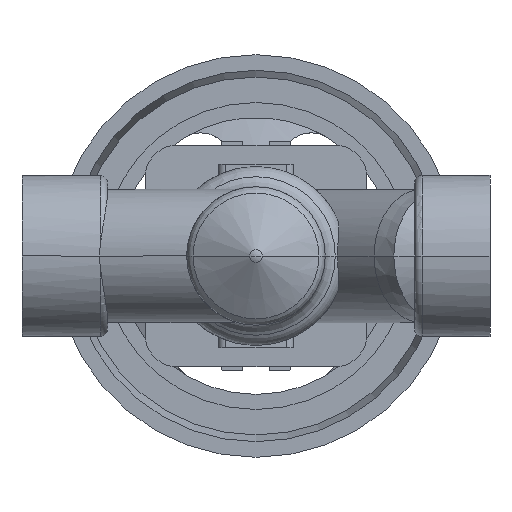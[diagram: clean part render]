
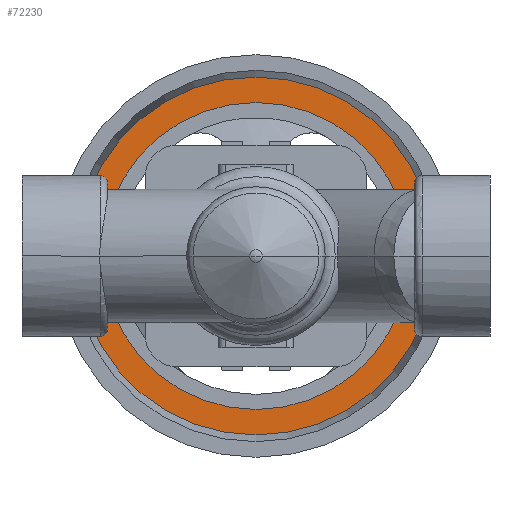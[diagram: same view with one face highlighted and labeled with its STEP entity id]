
A CAD part, front view. The second image highlights one B-rep face of the part: STEP entity #72230.
In plain terms, the highlighted planar face has unit normal (0, -1, 0).
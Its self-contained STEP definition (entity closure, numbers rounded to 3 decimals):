
#71680=CARTESIAN_POINT('',(164.109,289.4,0.)
);
#71690=VERTEX_POINT('',#71680);
#71770=CARTESIAN_POINT('',(21.891,289.4,0.));
#71780=VERTEX_POINT('',#71770);
#71810=CARTESIAN_POINT('',(93.,289.4,0.));
#71820=DIRECTION('',(0.,1.,0.));
#71830=DIRECTION('',(-1.,0.,0.));
#71840=AXIS2_PLACEMENT_3D('',#71810,#71820,#71830);
#71850=CIRCLE('',#71840,71.109);
#71860=EDGE_CURVE('',#71690,#71780,#71850,.T.);
#71980=CARTESIAN_POINT('',(26.946,289.4,0.))
;
#71990=DIRECTION('',(0.,-1.,0.));
#72000=DIRECTION('',(1.,0.,0.));
#72010=AXIS2_PLACEMENT_3D('',#71980,#71990,#72000);
#72020=PLANE('',#72010);
#72030=EDGE_CURVE('',#71780,#71690,#71850,.T.);
#72040=ORIENTED_EDGE('',*,*,#72030,.F.);
#72050=ORIENTED_EDGE('',*,*,#71860,.F.);
#72060=EDGE_LOOP('',(#72050,#72040));
#72070=FACE_OUTER_BOUND('',#72060,.T.);
#72080=CARTESIAN_POINT('',(93.,289.4,0.));
#72090=DIRECTION('',(0.,1.,0.));
#72100=DIRECTION('',(-1.,0.,0.));
#72110=AXIS2_PLACEMENT_3D('',#72080,#72090,#72100);
#72120=CIRCLE('',#72110,61.);
#72130=CARTESIAN_POINT('',(32.,289.4,0.));
#72140=VERTEX_POINT('',#72130);
#72150=CARTESIAN_POINT('',(154.,289.4,0.));
#72160=VERTEX_POINT('',#72150);
#72170=EDGE_CURVE('',#72140,#72160,#72120,.T.);
#72180=ORIENTED_EDGE('',*,*,#72170,.T.);
#72190=EDGE_CURVE('',#72160,#72140,#72120,.T.);
#72200=ORIENTED_EDGE('',*,*,#72190,.T.);
#72210=EDGE_LOOP('',(#72200,#72180));
#72220=FACE_BOUND('',#72210,.T.);
#72230=ADVANCED_FACE('',(#72070,#72220),#72020,.T.);
